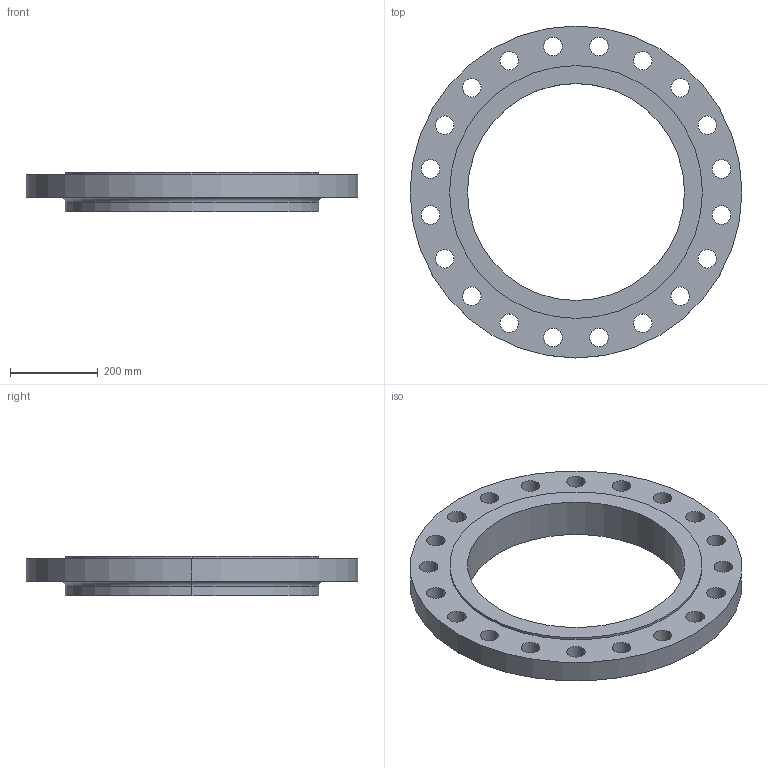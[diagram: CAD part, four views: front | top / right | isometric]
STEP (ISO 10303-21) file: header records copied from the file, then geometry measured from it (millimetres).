
FILE_DESCRIPTION (( 'STEP AP214' ), '1' );
FILE_NAME ('PN40 DN500 Type 13 - Type E Face.STEP', '2018-12-29T01:21:32', ( '' ), ( '' ), 'SwSTEP 2.0', 'SolidWorks 2019', '' );
FILE_SCHEMA (( 'AUTOMOTIVE_DESIGN' ));
Length unit declared in the file: millimetre
Products named in the file (1): PN40 DN500 Type 13 - Type E Face
Bounding box: 755 x 755 x 90 mm (x, y, z)
Volume: 14497687.3 mm3; surface area: 915400.7 mm2
Topology: 1 solids, 1 shells, 54 faces, 148 edges, 98 vertices
Faces by surface type: cylinder 48, plane 4, torus 2
Entity records: 1894 total; most frequent: DIRECTION 358, CARTESIAN_POINT 301, ORIENTED_EDGE 296, AXIS2_PLACEMENT_3D 155, EDGE_CURVE 148, CIRCLE 100, VERTEX_POINT 98, EDGE_LOOP 98
